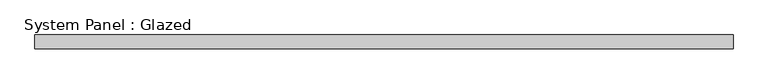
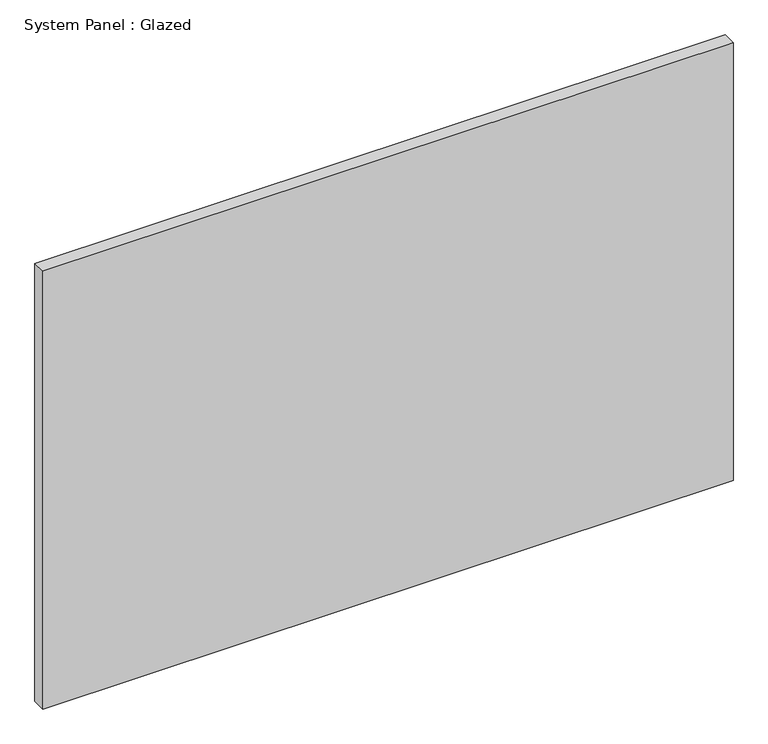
"""IFC4 building model written with IfcOpenShell, lengths in millimetres: plate geometry, System Panel : Glazed."""

from ifc_helpers import new_model, si_unit, origin, origin_with_axes, place, context, project, spatial, polyline, outline, extrude, source, transform, mapped, element, save


def system_panel_glazed_06504d0b(model_context):
    return source(origin(), model_context, "Body", "SweptSolid", [
        extrude(outline(polyline([(648.1535714, 19.05), (-648.1535714, 19.05), (-648.1535714, 44.45), (648.1535714, 44.45), (648.1535714, 19.05)])), origin_with_axes(), (0.0, 0.0, 1.0), 869.95),
    ])


if __name__ == "__main__":
    model = new_model("IFC4")
    model_context = context("Model", 3, world=origin())
    ifc_project = project(units=[si_unit("LENGTHUNIT", "METRE", prefix="MILLI")], contexts=[model_context])
    site = spatial("IfcSite", under=ifc_project)
    building = spatial("IfcBuilding", under=site)
    placement = place(None, origin())
    system_panel_glazed_shape = system_panel_glazed_06504d0b(model_context)
    element("IfcPlate", 1, ObjectType="System Panel : Glazed", at=placement, inside=building, context=model_context, shape_type="MappedRepresentation", body=[
        mapped(system_panel_glazed_shape, transform((0.0, 0.0, 0.0), x_axis=(1.0, 0.0, 0.0), y_axis=(0.0, 1.0, 0.0), z_axis=(0.0, 0.0, 1.0))),
    ])
    save(model, "model.ifc")
